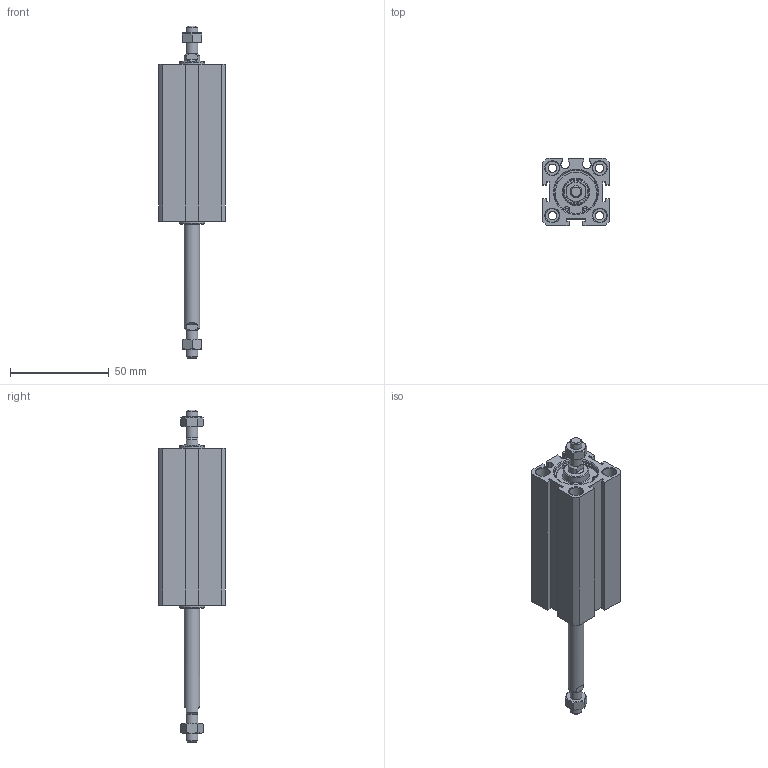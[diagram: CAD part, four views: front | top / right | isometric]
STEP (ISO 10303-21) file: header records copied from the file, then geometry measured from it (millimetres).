
FILE_DESCRIPTION((''),'2;1');
FILE_NAME('I:\3D電子目錄\氣缸\JDD\JDD-BS\JDD20-BS\JDD20x50-BS.stp','2007-02-27T13:34:52',('662F206'),(''),'Autodesk Inventor 10','Autodesk Inventor 10','');
FILE_SCHEMA(('AUTOMOTIVE_DESIGN { 1 0 10303 214 1 1 1 1 }'));
Length unit declared in the file: millimetre
Products named in the file (3): JDD20-BS; R 形環 23
Assembly tree (3 placements, depth 2):
  JDD20-BS
    JDD20-BS
    R 形環 23  x2
Bounding box: 34 x 34 x 168.5 mm (x, y, z)
Volume: 79218.1 mm3; surface area: 25745.7 mm2
Topology: 3 solids, 3 shells, 179 faces, 407 edges, 260 vertices
Faces by surface type: plane 84, cylinder 51, cone 32, bspline 10, torus 2
Full cylindrical faces by diameter (mm): 1.5 x6, 4.3 x4, 6 x4, 7 x8, 8 x1, 13 x2, 22 x4, 23.2 x2
Entity records: 4509 total; most frequent: CARTESIAN_POINT 953, DIRECTION 732, ORIENTED_EDGE 638, EDGE_CURVE 319, AXIS2_PLACEMENT_3D 294, EDGE_LOOP 256, VERTEX_POINT 233, FACE_OUTER_BOUND 167
